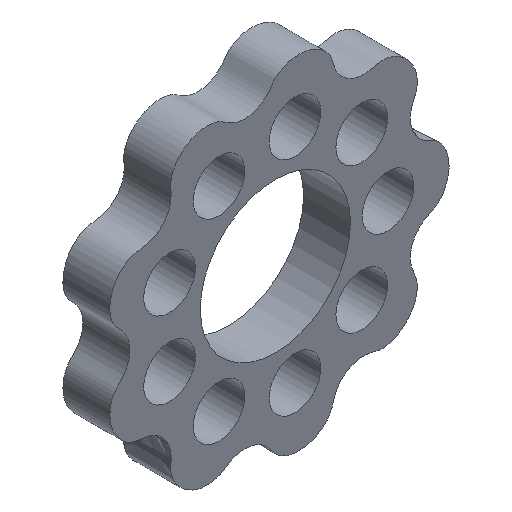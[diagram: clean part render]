
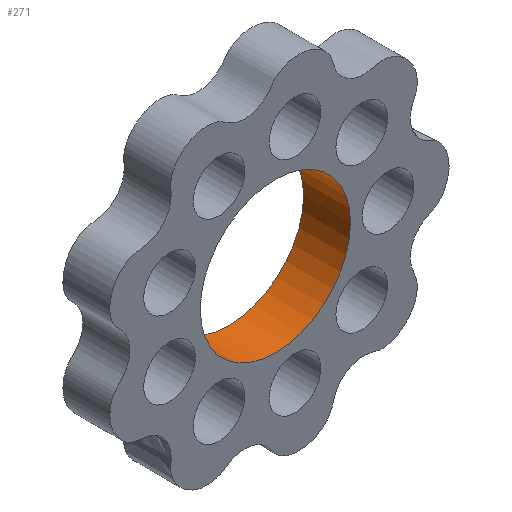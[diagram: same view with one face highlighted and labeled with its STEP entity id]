
A CAD part, isometric view. The second image highlights one B-rep face of the part: STEP entity #271.
In plain terms, the highlighted cylindrical face has radius 8 mm (diameter 16 mm), a full revolution.
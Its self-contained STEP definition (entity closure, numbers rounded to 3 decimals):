
#52=FACE_OUTER_BOUND('',#65,.T.);
#65=EDGE_LOOP('',(#222,#223,#224,#225));
#98=LINE('',#463,#109);
#109=VECTOR('',#396,8.);
#129=CIRCLE('',#323,8.);
#130=CIRCLE('',#324,8.);
#149=VERTEX_POINT('',#460);
#150=VERTEX_POINT('',#462);
#180=EDGE_CURVE('',#149,#149,#129,.T.);
#181=EDGE_CURVE('',#149,#150,#98,.T.);
#182=EDGE_CURVE('',#150,#150,#130,.T.);
#222=ORIENTED_EDGE('',*,*,#180,.F.);
#223=ORIENTED_EDGE('',*,*,#181,.T.);
#224=ORIENTED_EDGE('',*,*,#182,.F.);
#225=ORIENTED_EDGE('',*,*,#181,.F.);
#261=CYLINDRICAL_SURFACE('',#322,8.);
#271=ADVANCED_FACE('',(#52),#261,.F.);
#322=AXIS2_PLACEMENT_3D('',#459,#392,#393);
#323=AXIS2_PLACEMENT_3D('',#461,#394,#395);
#324=AXIS2_PLACEMENT_3D('',#464,#397,#398);
#392=DIRECTION('center_axis',(0.,-1.,0.));
#393=DIRECTION('ref_axis',(1.,0.,0.));
#394=DIRECTION('center_axis',(0.,-1.,0.));
#395=DIRECTION('ref_axis',(1.,0.,0.));
#396=DIRECTION('',(0.,-1.,0.));
#397=DIRECTION('center_axis',(0.,1.,0.));
#398=DIRECTION('ref_axis',(1.,0.,0.));
#459=CARTESIAN_POINT('Origin',(0.,5.,0.));
#460=CARTESIAN_POINT('',(-8.,5.,0.));
#461=CARTESIAN_POINT('Origin',(0.,5.,0.));
#462=CARTESIAN_POINT('',(-8.,0.,0.));
#463=CARTESIAN_POINT('',(-8.,5.,0.));
#464=CARTESIAN_POINT('Origin',(0.,0.,0.));
